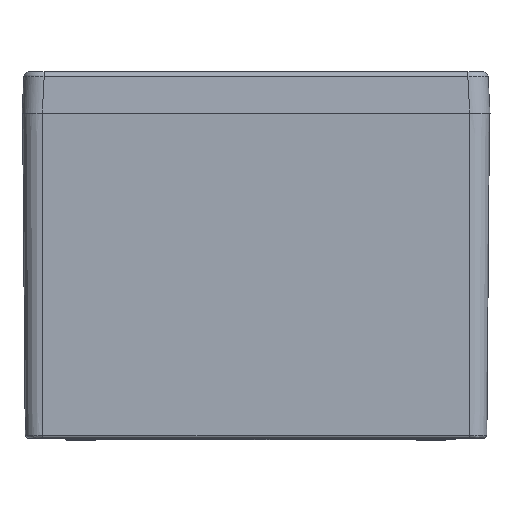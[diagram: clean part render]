
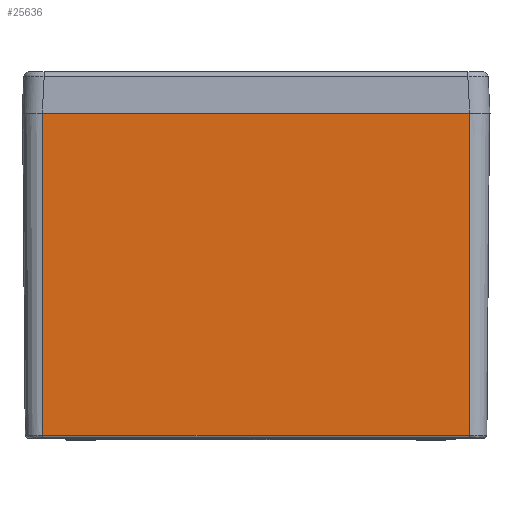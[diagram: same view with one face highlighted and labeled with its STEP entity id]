
A CAD part, left-side view. The second image highlights one B-rep face of the part: STEP entity #25636.
In plain terms, the highlighted planar face has unit normal (-1, 0, -0.008).
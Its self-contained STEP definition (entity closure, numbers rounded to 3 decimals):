
#23 = EDGE_CURVE ( 'NONE', #35416, #38949, #50666, .T. ) ;
#2389 = VECTOR ( 'NONE', #45043, 1000. ) ;
#2464 = CARTESIAN_POINT ( 'NONE',  ( -165., -105., 160.1 ) ) ;
#4270 = LINE ( 'NONE', #46241, #25563 ) ;
#6061 = DIRECTION ( 'NONE',  ( -0.008, 0., 1. ) ) ;
#6255 = ORIENTED_EDGE ( 'NONE', *, *, #43826, .F. ) ;
#9444 = VECTOR ( 'NONE', #38553, 1000. ) ;
#10044 = AXIS2_PLACEMENT_3D ( 'NONE', #30275, #10254, #6061 ) ;
#10254 = DIRECTION ( 'NONE',  ( -1., 0., -0.008 ) ) ;
#10589 = CARTESIAN_POINT ( 'NONE',  ( -163.699, 105., 1.488 ) ) ;
#16208 = CARTESIAN_POINT ( 'NONE',  ( -163.699, 115., 1.488 ) ) ;
#16384 = VERTEX_POINT ( 'NONE', #31982 ) ;
#18183 = EDGE_CURVE ( 'NONE', #38949, #16384, #23953, .T. ) ;
#20488 = EDGE_LOOP ( 'NONE', ( #32983, #24946, #51212, #6255 ) ) ;
#22025 = EDGE_CURVE ( 'NONE', #46435, #16384, #4270, .T. ) ;
#22247 = DIRECTION ( 'NONE',  ( -0.008, 0., 1. ) ) ;
#23953 = LINE ( 'NONE', #30299, #9444 ) ;
#24946 = ORIENTED_EDGE ( 'NONE', *, *, #18183, .T. ) ;
#25563 = VECTOR ( 'NONE', #22247, 1000. ) ;
#25636 = ADVANCED_FACE ( 'NONE', ( #28159 ), #30116, .T. ) ;
#27203 = CARTESIAN_POINT ( 'NONE',  ( -165., -105., 160.1 ) ) ;
#28159 = FACE_OUTER_BOUND ( 'NONE', #20488, .T. ) ;
#30116 = PLANE ( 'NONE',  #10044 ) ;
#30275 = CARTESIAN_POINT ( 'NONE',  ( -165., 115., 160.1 ) ) ;
#30299 = CARTESIAN_POINT ( 'NONE',  ( -165., 115., 160.1 ) ) ;
#31982 = CARTESIAN_POINT ( 'NONE',  ( -165., 105., 160.1 ) ) ;
#32053 = VECTOR ( 'NONE', #48313, 1000. ) ;
#32983 = ORIENTED_EDGE ( 'NONE', *, *, #23, .T. ) ;
#35416 = VERTEX_POINT ( 'NONE', #42513 ) ;
#38553 = DIRECTION ( 'NONE',  ( 0., 1., 0. ) ) ;
#38949 = VERTEX_POINT ( 'NONE', #2464 ) ;
#42513 = CARTESIAN_POINT ( 'NONE',  ( -163.699, -105., 1.488 ) ) ;
#42659 = LINE ( 'NONE', #16208, #32053 ) ;
#43826 = EDGE_CURVE ( 'NONE', #35416, #46435, #42659, .T. ) ;
#45043 = DIRECTION ( 'NONE',  ( -0.008, 0., 1. ) ) ;
#46241 = CARTESIAN_POINT ( 'NONE',  ( -165., 105., 160.1 ) ) ;
#46435 = VERTEX_POINT ( 'NONE', #10589 ) ;
#48313 = DIRECTION ( 'NONE',  ( 0., 1., 0. ) ) ;
#50666 = LINE ( 'NONE', #27203, #2389 ) ;
#51212 = ORIENTED_EDGE ( 'NONE', *, *, #22025, .F. ) ;
